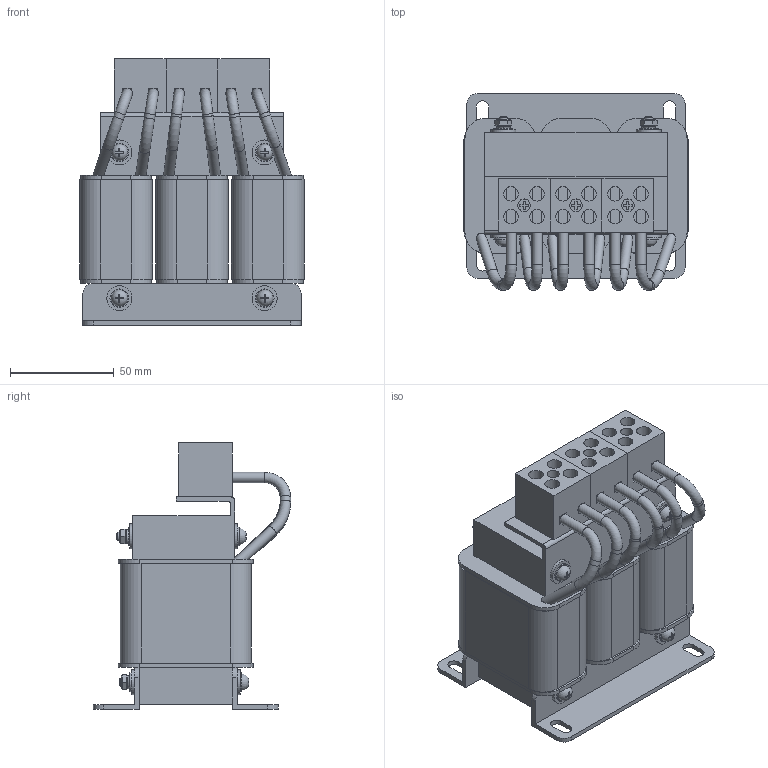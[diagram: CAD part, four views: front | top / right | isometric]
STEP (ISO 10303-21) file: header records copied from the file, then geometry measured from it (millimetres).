
FILE_DESCRIPTION(('STEP AP203'), '1');
FILE_NAME('栖闉罻 _ ISF-7.5_20.5-4', '', ('UNSPECIFIED'), ('UNSPECIFIED'), 'ASCON STEP Converter 1.6', 'ASCON Math Kernel', '');
FILE_SCHEMA(('CONFIG_CONTROL_DESIGN'));
Length unit declared in the file: millimetre
Products named in the file (13): ISF-7.5_20.5-4; ISF-2.2_5.8-4
Assembly tree (45 placements, depth 2):
  ISF-7.5_20.5-4
    ISF-7.5_20.5-4
    ISF-7.5_20.5-4  x2
    ISF-7.5_20.5-4  x6
    ISF-7.5_20.5-4  x3
    ISF-7.5_20.5-4
    ISF-2.2_5.8-4  x3
    ISF-2.2_5.8-4  x8
    ISF-2.2_5.8-4  x8
    ISF-2.2_5.8-4  x4
    ISF-2.2_5.8-4  x4
    ISF-2.2_5.8-4  x4
    ISF-7.5_20.5-4
Bounding box: 108 x 95 x 128.3 mm (x, y, z)
Volume: 567398.5 mm3; surface area: 152389 mm2
Topology: 50 solids, 50 shells, 631 faces, 1497 edges, 970 vertices
Faces by surface type: plane 460, cylinder 135, torus 24, cone 12
Full cylindrical faces by diameter (mm): 4 x32, 5 x18, 6 x3, 7 x12, 9 x8, 12 x8
Entity records: 8076 total; most frequent: CARTESIAN_POINT 1558, DIRECTION 1102, ORIENTED_EDGE 930, EDGE_CURVE 465, AXIS2_PLACEMENT_3D 394, VERTEX_POINT 331, LINE 314, VECTOR 314
